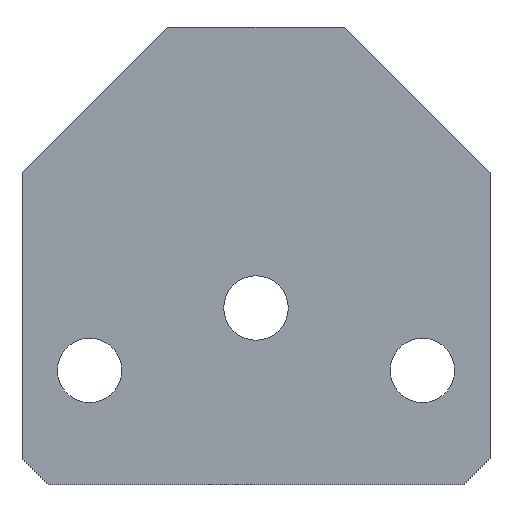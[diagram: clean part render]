
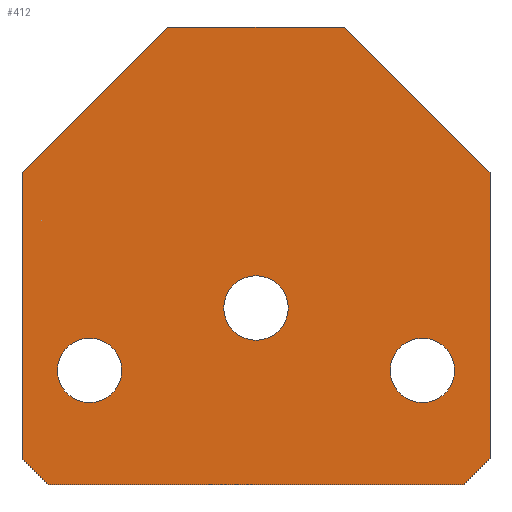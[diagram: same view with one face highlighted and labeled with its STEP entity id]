
A CAD part, left-side view. The second image highlights one B-rep face of the part: STEP entity #412.
In plain terms, the highlighted planar face has unit normal (-1, 0, 0).
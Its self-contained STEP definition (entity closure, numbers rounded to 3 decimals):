
#15=FACE_BOUND('',#81,.T.);
#16=FACE_BOUND('',#82,.T.);
#17=FACE_BOUND('',#83,.T.);
#27=PLANE('',#467);
#54=FACE_OUTER_BOUND('',#80,.T.);
#80=EDGE_LOOP('',(#321,#322,#323,#324,#325,#326,#327,#328));
#81=EDGE_LOOP('',(#329));
#82=EDGE_LOOP('',(#330));
#83=EDGE_LOOP('',(#331));
#114=LINE('',#657,#150);
#118=LINE('',#665,#154);
#121=LINE('',#671,#157);
#122=LINE('',#673,#158);
#123=LINE('',#675,#159);
#124=LINE('',#677,#160);
#125=LINE('',#679,#161);
#126=LINE('',#680,#162);
#150=VECTOR('',#535,19.799);
#154=VECTOR('',#541,17.);
#157=VECTOR('',#546,27.5);
#158=VECTOR('',#547,3.536);
#159=VECTOR('',#548,40.);
#160=VECTOR('',#549,3.536);
#161=VECTOR('',#550,27.5);
#162=VECTOR('',#551,19.799);
#182=CIRCLE('',#454,3.1);
#185=CIRCLE('',#459,3.1);
#188=CIRCLE('',#464,3.1);
#201=VERTEX_POINT('',#631);
#204=VERTEX_POINT('',#641);
#207=VERTEX_POINT('',#651);
#208=VERTEX_POINT('',#655);
#209=VERTEX_POINT('',#656);
#212=VERTEX_POINT('',#664);
#214=VERTEX_POINT('',#670);
#215=VERTEX_POINT('',#672);
#216=VERTEX_POINT('',#674);
#217=VERTEX_POINT('',#676);
#218=VERTEX_POINT('',#678);
#237=EDGE_CURVE('',#201,#201,#182,.T.);
#242=EDGE_CURVE('',#204,#204,#185,.T.);
#247=EDGE_CURVE('',#207,#207,#188,.T.);
#249=EDGE_CURVE('',#208,#209,#114,.T.);
#253=EDGE_CURVE('',#209,#212,#118,.T.);
#256=EDGE_CURVE('',#208,#214,#121,.T.);
#257=EDGE_CURVE('',#215,#214,#122,.T.);
#258=EDGE_CURVE('',#215,#216,#123,.T.);
#259=EDGE_CURVE('',#217,#216,#124,.T.);
#260=EDGE_CURVE('',#217,#218,#125,.T.);
#261=EDGE_CURVE('',#212,#218,#126,.T.);
#321=ORIENTED_EDGE('',*,*,#249,.F.);
#322=ORIENTED_EDGE('',*,*,#256,.T.);
#323=ORIENTED_EDGE('',*,*,#257,.F.);
#324=ORIENTED_EDGE('',*,*,#258,.T.);
#325=ORIENTED_EDGE('',*,*,#259,.F.);
#326=ORIENTED_EDGE('',*,*,#260,.T.);
#327=ORIENTED_EDGE('',*,*,#261,.F.);
#328=ORIENTED_EDGE('',*,*,#253,.F.);
#329=ORIENTED_EDGE('',*,*,#237,.T.);
#330=ORIENTED_EDGE('',*,*,#242,.T.);
#331=ORIENTED_EDGE('',*,*,#247,.T.);
#412=ADVANCED_FACE('',(#54,#15,#16,#17),#27,.T.);
#454=AXIS2_PLACEMENT_3D('',#632,#506,#507);
#459=AXIS2_PLACEMENT_3D('',#642,#518,#519);
#464=AXIS2_PLACEMENT_3D('',#652,#530,#531);
#467=AXIS2_PLACEMENT_3D('',#669,#544,#545);
#506=DIRECTION('center_axis',(1.,0.,0.));
#507=DIRECTION('ref_axis',(0.,0.,-1.));
#518=DIRECTION('center_axis',(1.,0.,0.));
#519=DIRECTION('ref_axis',(0.,0.,-1.));
#530=DIRECTION('center_axis',(1.,0.,0.));
#531=DIRECTION('ref_axis',(0.,0.,-1.));
#535=DIRECTION('',(0.,-0.707,0.707));
#541=DIRECTION('',(0.,-1.,0.));
#544=DIRECTION('center_axis',(-1.,0.,0.));
#545=DIRECTION('ref_axis',(0.,0.,1.));
#546=DIRECTION('',(0.,0.,-1.));
#547=DIRECTION('',(0.,0.707,0.707));
#548=DIRECTION('',(0.,-1.,0.));
#549=DIRECTION('',(0.,0.707,-0.707));
#550=DIRECTION('',(0.,0.,1.));
#551=DIRECTION('',(0.,-0.707,-0.707));
#631=CARTESIAN_POINT('',(-3.,0.,-14.9));
#632=CARTESIAN_POINT('Origin',(-3.,0.,-18.));
#641=CARTESIAN_POINT('',(-3.,-16.,-20.9));
#642=CARTESIAN_POINT('Origin',(-3.,-16.,-24.));
#651=CARTESIAN_POINT('',(-3.,16.,-20.9));
#652=CARTESIAN_POINT('Origin',(-3.,16.,-24.));
#655=CARTESIAN_POINT('',(-3.,22.5,-5.));
#656=CARTESIAN_POINT('',(-3.,8.5,9.));
#657=CARTESIAN_POINT('',(-3.,9.875,7.625));
#664=CARTESIAN_POINT('',(-3.,-8.5,9.));
#665=CARTESIAN_POINT('',(-3.,0.,9.));
#669=CARTESIAN_POINT('Origin',(-3.,0.,9.));
#670=CARTESIAN_POINT('',(-3.,22.5,-32.5));
#671=CARTESIAN_POINT('',(-3.,22.5,9.));
#672=CARTESIAN_POINT('',(-3.,20.,-35.));
#673=CARTESIAN_POINT('',(-3.,26.625,-28.375));
#674=CARTESIAN_POINT('',(-3.,-20.,-35.));
#675=CARTESIAN_POINT('',(-3.,0.,-35.));
#676=CARTESIAN_POINT('',(-3.,-22.5,-32.5));
#677=CARTESIAN_POINT('',(-3.,-26.625,-28.375));
#678=CARTESIAN_POINT('',(-3.,-22.5,-5.));
#679=CARTESIAN_POINT('',(-3.,-22.5,9.));
#680=CARTESIAN_POINT('',(-3.,-9.875,7.625));
